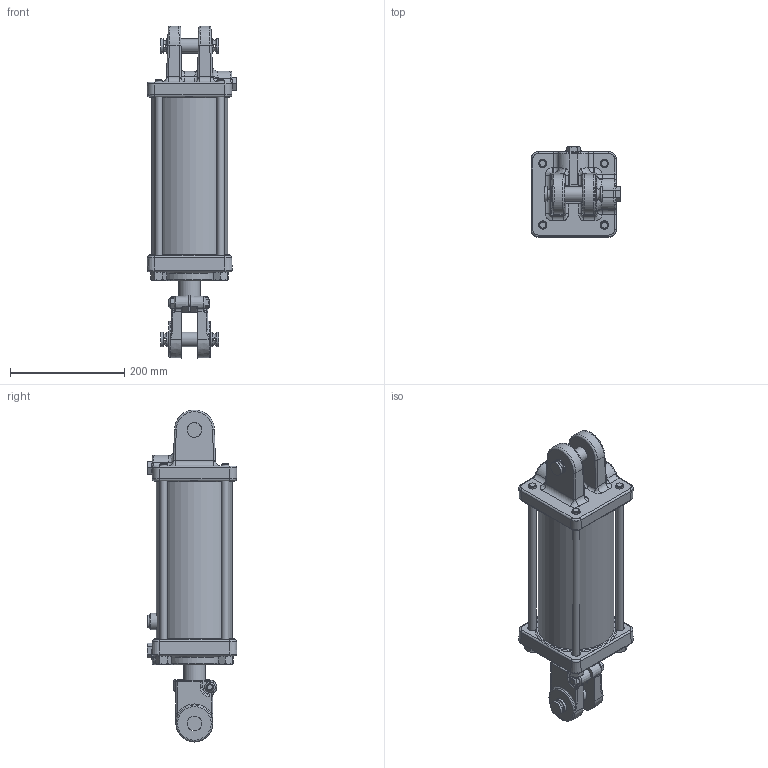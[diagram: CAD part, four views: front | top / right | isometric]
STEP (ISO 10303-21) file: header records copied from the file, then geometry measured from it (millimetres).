
FILE_DESCRIPTION((''),'2;1');
FILE_NAME('\\SRVR-ENG\EngSales\PMS-AM-2538.stp','2012-05-17T08:22:25',('KneiflD'),(''),'Autodesk Inventor 2012','Autodesk Inventor 2012','');
FILE_SCHEMA(('AUTOMOTIVE_DESIGN { 1 0 10303 214 1 1 1 1 }'));
Length unit declared in the file: inch
Products named in the file (28): PMS-AM-2538; 062100544; 052100511; 200300181V; 142100019V; 010800648; 072100372V; 220000211V; 082100284V; 082100283V; 210800205V; 100000326; 100000325; 170002105; 220000223; 190400004V; 200300040V; 200300104V; 240011113V; 240000029V; 240000246V; 240061246V; 240020059V; 250014150V; 240064475V; 170301136; 220000107V
Assembly tree (35 placements, depth 3):
  PMS-AM-2538
    062100544
      052100511
      200300181V
    142100019V
    010800648
    072100372V
    220000211V
    082100284V
      082100283V
      210800205V
    100000326
      100000325
      170002105
      220000223
    190400004V  x2
    200300040V  x3
    200300104V
    240011113V
    240000029V
    240000246V  x2
    240061246V  x2
    240020059V
    250014150V
    240064475V
    170301136  x4
      170301136
      220000107V
Bounding box: 157.66 x 157.67 x 581.69 mm (x, y, z)
Volume: 3797539.2 mm3; surface area: 710893.7 mm2
Topology: 34 solids, 34 shells, 942 faces, 2134 edges, 1259 vertices
Faces by surface type: plane 277, cylinder 233, cone 178, bspline 172, torus 70, sphere 12
Full cylindrical faces by diameter (mm): 1.575 x1, 2.769 x1, 5.156 x2, 5.159 x2, 7.938 x3, 9.347 x1, 11.113 x1, 11.906 x2, 12.7 x4, 14.351 x4, 14.529 x4, 16.272 x4, 16.764 x3, 17.066 x3, 17.463 x1, 17.501 x4, 19.05 x4, 22.352 x1, 25.4 x6, 25.781 x4, 26.289 x1, 28.524 x1, 28.575 x1, 28.651 x1, 30.429 x2, 37.897 x1, 38.075 x2, 38.1 x1, 38.354 x1, 38.71 x1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
Entity records: 28140 total; most frequent: CARTESIAN_POINT 10941, DIRECTION 3301, ORIENTED_EDGE 3206, EDGE_CURVE 1603, AXIS2_PLACEMENT_3D 1410, VERTEX_POINT 1036, EDGE_LOOP 1021, FACE_OUTER_BOUND 784
